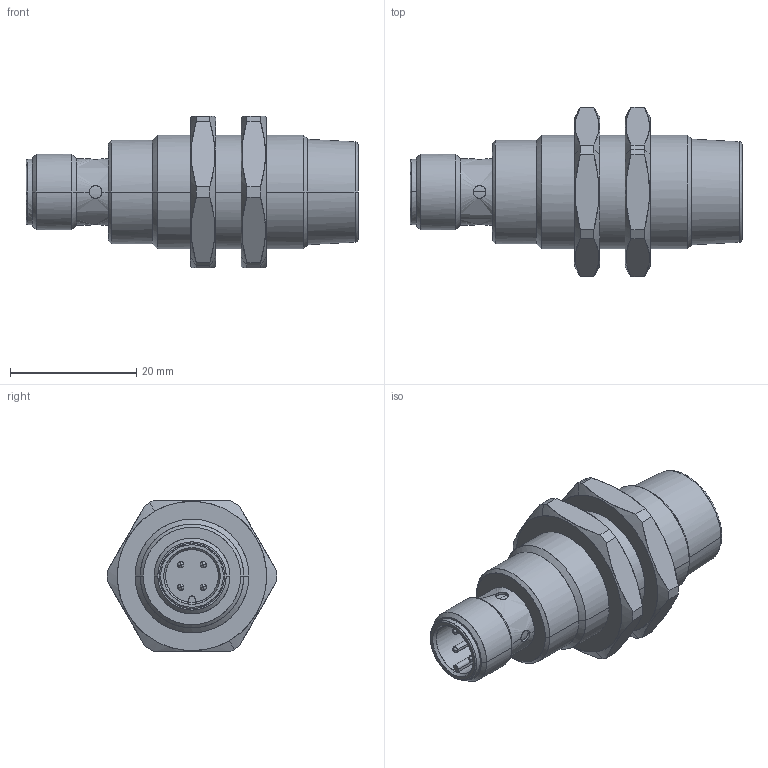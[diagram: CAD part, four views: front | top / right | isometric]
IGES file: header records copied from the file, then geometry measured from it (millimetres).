
Start section: Comment
Global section: file name: IFRM 18xx301_S14L.igs; native system:  By Spatial Corp.; preprocessor: XPlus GENERIC/IGES 3.0; author: Author; organization: Title; date: 20060323.085339; units: inch
Bounding box: 52.5 x 26.75 x 24 mm (x, y, z)
Surface area: 5811.1 mm2 (no closed solid volume)
Topology: 0 solids, 0 shells, 141 faces, 642 edges, 626 vertices
Faces by surface type: bspline 141
